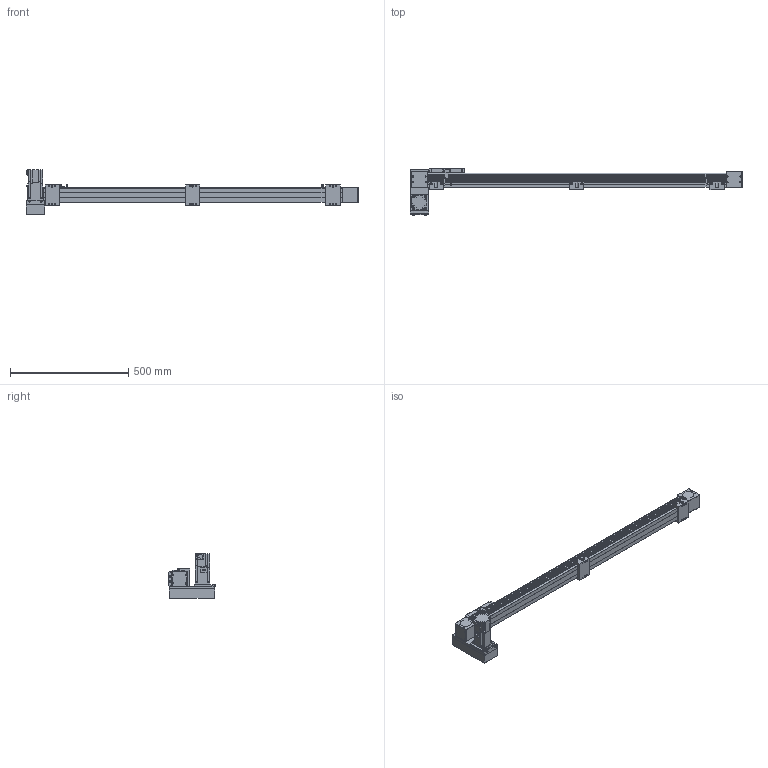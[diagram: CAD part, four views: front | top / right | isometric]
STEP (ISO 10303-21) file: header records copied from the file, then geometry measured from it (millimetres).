
FILE_DESCRIPTION(/* description */ ('STEP AP214'),/* implementation_level */ '2;1');
FILE_NAME(/* name */ 'SK60-P13-S1100-LD-T40-C1-N(0)',/* time_stamp */ '2023-04-06T04:38:50+02:00',/* author */ ('License CC BY-ND 4.0'),/* organization */ ('CADENAS'),/* preprocessor_version */ 'ST-DEVELOPER v19.3',/* originating_system */ 'PARTsolutions',/* authorisation */ ' ');
FILE_SCHEMA (('AUTOMOTIVE_DESIGN {1 0 10303 214 3 1 1}'));
Length unit declared in the file: millimetre
Products named in the file (10): SK60-P13-S1100-LD-T40-C1-N(0); PSC140-sensor; SK60-S450_seat; SK60-S450-BL-C1_slider; SK60_body3; SK60_body6; SK60-BL_body2; T40-p1; SK60-LD_fb; SK60-S1100-LD-C1_body
Assembly tree (17 placements, depth 2):
  SK60-P13-S1100-LD-T40-C1-N(0)
    PSC140-sensor  x3
    SK60-S450_seat  x3
    SK60-S450-BL-C1_slider
    SK60_body3  x3
    SK60_body6  x2
    SK60-BL_body2  x2
    T40-p1
    SK60-LD_fb
    SK60-S1100-LD-C1_body
Bounding box: 1405.5 x 199 x 189.7 mm (x, y, z)
Volume: 5992892.9 mm3; surface area: 751071.7 mm2
Topology: 17 solids, 17 shells, 854 faces, 2146 edges, 1413 vertices
Faces by surface type: plane 548, cylinder 278, cone 26, torus 2
Full cylindrical faces by diameter (mm): 2.8 x3, 3.3 x4, 4 x2, 4.5 x30, 4.6 x3, 4.917 x20, 5 x6, 5.478 x4, 5.5 x23, 6.5 x6, 7 x2, 8 x4, 8.5 x4, 9.988 x4, 10 x12, 14 x1, 47 x3, 50 x2
Entity records: 18663 total; most frequent: DIRECTION 3186, CARTESIAN_POINT 3151, ORIENTED_EDGE 2940, EDGE_CURVE 1470, AXIS2_PLACEMENT_3D 1069, LINE 1048, VECTOR 1048, VERTEX_POINT 1034
